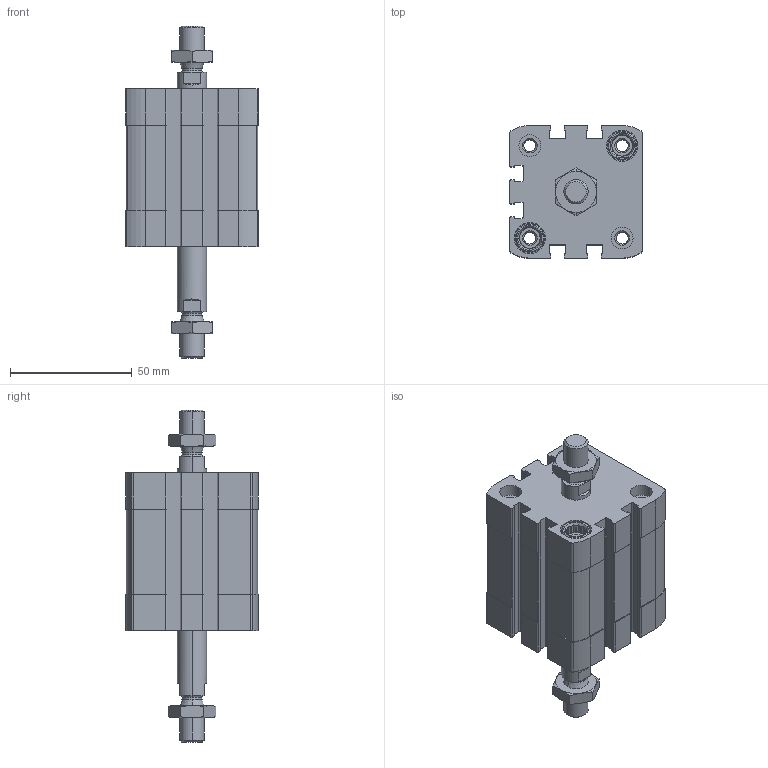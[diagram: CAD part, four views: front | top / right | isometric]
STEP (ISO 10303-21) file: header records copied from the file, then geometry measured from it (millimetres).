
FILE_DESCRIPTION (( 'STEP AP203' ), '1' );
FILE_NAME ('CCN40-20-P.STEP', '2020-06-22T18:51:33', ( '' ), ( '' ), 'SwSTEP 2.0', 'SolidWorks 2019', '' );
FILE_SCHEMA (( 'CONFIG_CONTROL_DESIGN' ));
Length unit declared in the file: millimetre
Products named in the file (1): CCN40-20-P
Bounding box: 54.5 x 54.5 x 136.6 mm (x, y, z)
Volume: 152523.3 mm3; surface area: 48431.9 mm2
Topology: 4 solids, 4 shells, 536 faces, 1416 edges, 920 vertices
Faces by surface type: plane 288, cylinder 180, cone 60, torus 8
Entity records: 17371 total; most frequent: CARTESIAN_POINT 3741, DIRECTION 2898, ORIENTED_EDGE 2832, EDGE_CURVE 1416, AXIS2_PLACEMENT_3D 1069, VERTEX_POINT 920, VECTOR 760, LINE 760
